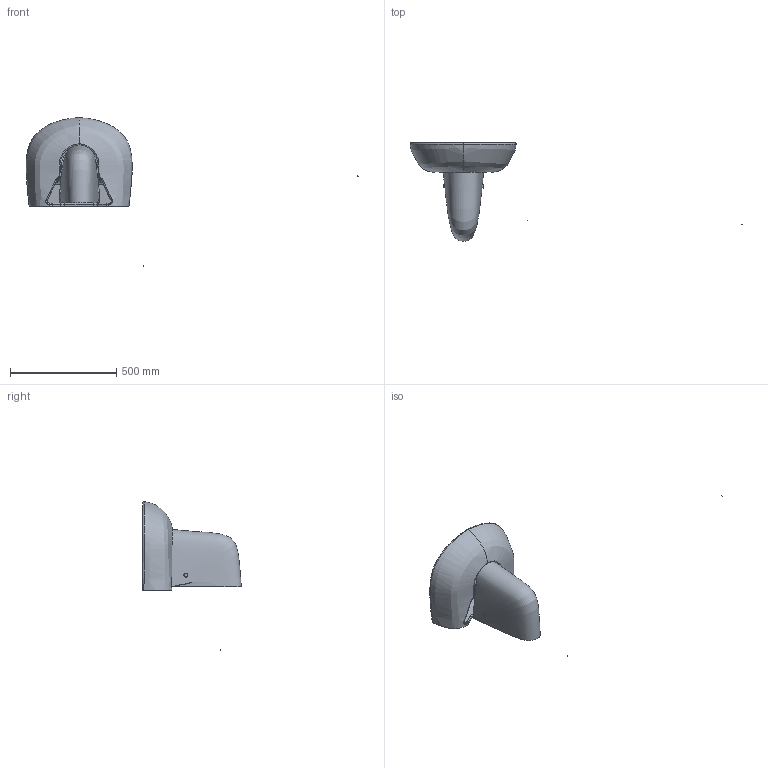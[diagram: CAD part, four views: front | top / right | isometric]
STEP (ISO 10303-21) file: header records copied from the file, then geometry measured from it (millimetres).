
FILE_DESCRIPTION (( 'STEP AP203' ), '1' );
FILE_NAME ('tp150.STEP', '2023-01-19T08:17:32', ( '' ), ( '' ), 'SwSTEP 2.0', 'SolidWorks 2021', '' );
FILE_SCHEMA (( 'CONFIG_CONTROL_DESIGN' ));
Products named in the file (1): tp150
Bounding box: 1564.25 x 464.71 x 700.14 mm (x, y, z)
Volume: 11229282.5 mm3; surface area: 1249410 mm2
Topology: 23 solids, 26 shells, 229 faces, 542 edges, 360 vertices
Faces by surface type: bspline 152, plane 36, cylinder 35, torus 6
Entity records: 182275 total; most frequent: CARTESIAN_POINT 178039, ORIENTED_EDGE 1076, EDGE_CURVE 538, DIRECTION 463, VERTEX_POINT 360, B_SPLINE_CURVE_WITH_KNOTS 343, EDGE_LOOP 240, FACE_OUTER_BOUND 229
